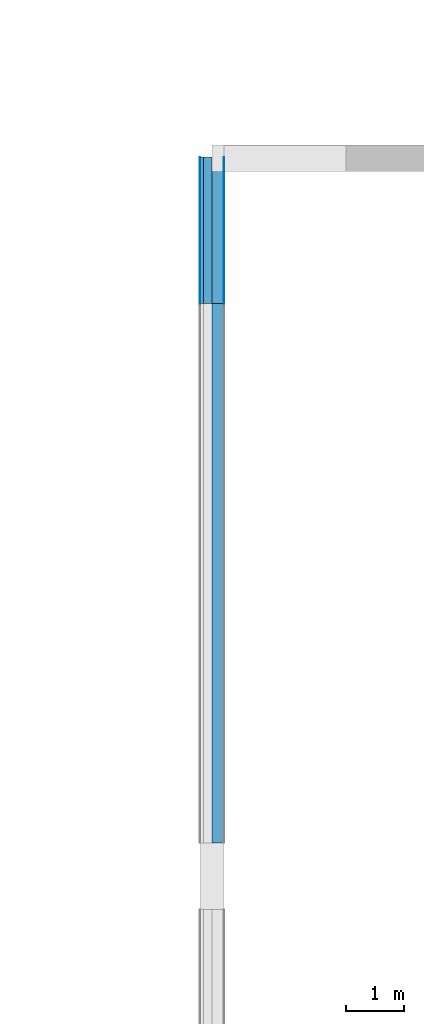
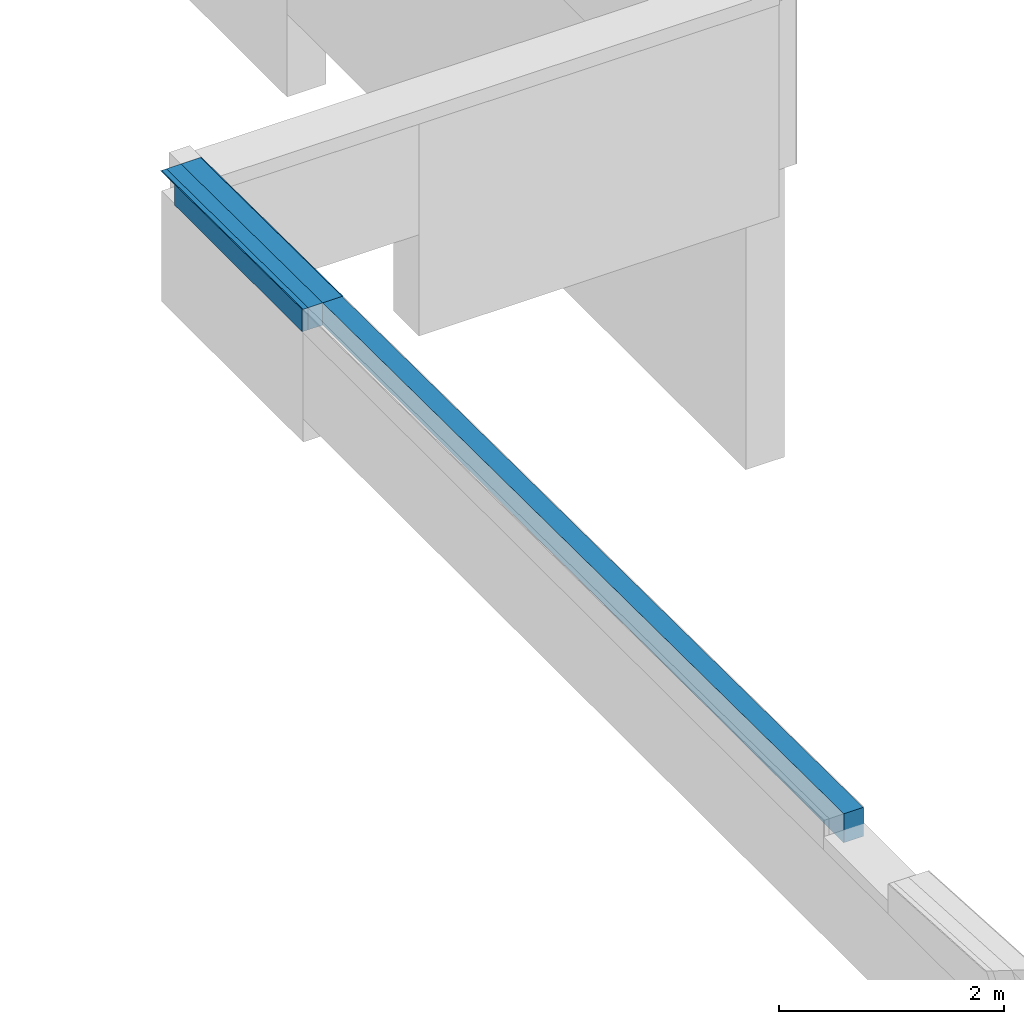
# One storey, part 11 of 17: 6 building element parts, 2 elements without a shape of their own.
"""IFC2X3 building model written with IfcOpenShell, lengths in millimetres."""

from ifc_helpers import new_model, entity, si_unit, converted_unit, derived_unit, money_unit, direction, frame, origin_with_axes, place, context, subcontext, project, spatial, polyline, outline, extrude, boolean, faceted_brep, material, type_object, element, aggregate, save


model = new_model("IFC2X3")

# Units and contexts
model_context = context("Model", 3, precision=0.01, world=origin_with_axes(), true_north=direction((0.0, 1.0)))
body_context = subcontext(model_context, "Body", "Model", "MODEL_VIEW")
ifc_project = project(units=[si_unit("LENGTHUNIT", "METRE", prefix="MILLI"), si_unit("AREAUNIT", "SQUARE_METRE"), si_unit("VOLUMEUNIT", "CUBIC_METRE"), converted_unit("PLANEANGLEUNIT", "DEGREE", entity("IfcPlaneAngleMeasure", 0.0174532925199), si_unit("PLANEANGLEUNIT", "RADIAN"), dimensions=[0, 0, 0, 0, 0, 0, 0]), si_unit("SOLIDANGLEUNIT", "STERADIAN"), money_unit("EUR"), converted_unit("TIMEUNIT", "Year", entity("IfcTimeMeasure", 31556926.0), si_unit("TIMEUNIT", "SECOND"), dimensions=[0, 0, 1, 0, 0, 0, 0]), si_unit("MASSUNIT", "GRAM", prefix="KILO"), si_unit("THERMODYNAMICTEMPERATUREUNIT", "DEGREE_CELSIUS"), si_unit("LUMINOUSINTENSITYUNIT", "LUMEN"), si_unit("ENERGYUNIT", "JOULE", prefix="MEGA"), derived_unit("THERMALCONDUCTANCEUNIT", [(si_unit("POWERUNIT", "WATT"), 1), (si_unit("LENGTHUNIT", "METRE"), -1), (si_unit("THERMODYNAMICTEMPERATUREUNIT", "KELVIN"), -1)]), derived_unit("SPECIFICHEATCAPACITYUNIT", [(si_unit("ENERGYUNIT", "JOULE"), 1), (si_unit("MASSUNIT", "GRAM", prefix="KILO"), -1), (si_unit("THERMODYNAMICTEMPERATUREUNIT", "KELVIN"), -1)]), derived_unit("MASSDENSITYUNIT", [(si_unit("MASSUNIT", "GRAM", prefix="KILO"), 1), (si_unit("VOLUMEUNIT", "CUBIC_METRE"), -1)])], contexts=[model_context])

# Site, building, storey
site_placement = place(None, origin_with_axes())
site = spatial("IfcSite", under=ifc_project, at=site_placement, Name="Puškini 31, Narva", CompositionType="ELEMENT")
building_placement = place(site_placement, origin_with_axes())
building = spatial("IfcBuilding", under=site, at=building_placement, Name="Narva Riigigümnaasium", CompositionType="ELEMENT")
storey_placement = place(building_placement, frame((0.0, 0.0, -6800.0), z_axis=(0.0, 0.0, 1.0), x_axis=(1.0, 0.0, 0.0)))
storey = spatial("IfcBuildingStorey", under=building, at=storey_placement, Name="0.korrus -6.8", CompositionType="ELEMENT", Elevation=-6800.0)

# Wall, building element part
wall_type = type_object("IfcWallType", Name="G-VS-02 420", PredefinedType="NOTDEFINED")
wall_1_placement = place(storey_placement, frame((22199.9999985, 183110.149991, 5330.0), z_axis=(0.0, 0.0, 1.0), x_axis=(0.0, 1.0, 0.0)))
wall_1 = element("IfcWall", 1, at=wall_1_placement, inside=storey, type_object=wall_type, Name="Sisesein")
ifc_material_1 = material(Name="Betoon element")
building_element_part_1_placement = place(wall_1_placement, origin_with_axes())
building_element_part_1 = element("IfcBuildingElementPart", 2, at=building_element_part_1_placement, material=ifc_material_1, Name="Betoon element", context=body_context, shape_type="CSG", body=[
    boolean("DIFFERENCE", boolean("DIFFERENCE", boolean("DIFFERENCE", boolean("DIFFERENCE", boolean("DIFFERENCE", boolean("DIFFERENCE", extrude(outline(polyline([(0.0, -200.0), (9269.85000857, -200.0), (9269.85000857, 0.0), (0.0, 0.0), (0.0, -200.0)])), origin_with_axes(), (0.0, 0.0, 1.0), 500.0), faceted_brep([(9269.85000857, -200.0, 150.0), (9269.85000857, -210.0, 150.0), (9269.85000857, -210.0, 0.0), (9269.85000857, -200.0, 0.0), (9069.85000856, -210.0, 150.0), (9069.85000856, -200.0, 150.0), (9069.85000856, -210.0, 140.0), (0.0, -210.0, 140.0), (0.0, -210.0, 0.0), (0.0, -200.0, 0.0), (0.0, -200.0, 140.0), (9069.85000856, -200.0, 140.0)], [[[0, 1, 2, 3]], [[4, 1, 0, 5]], [[6, 7, 8, 2, 1, 4]], [[2, 8, 9, 3]], [[5, 0, 3, 9, 10, 11]], [[6, 4, 5, 11]], [[7, 6, 11, 10]], [[7, 10, 9, 8]]])), faceted_brep([(0.0, -210.0, 315.342716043), (9269.85000857, -210.0, 242.144862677), (9269.85000857, -210.0, 500.0), (0.0, -210.0, 500.0), (9269.85000857, -200.0, 242.144862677), (0.0, -200.0, 315.342716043), (9269.85000857, -200.0, 500.0), (0.0, -200.0, 500.0)], [[[0, 1, 2, 3]], [[4, 1, 0, 5]], [[1, 4, 6, 2]], [[7, 3, 2, 6]], [[5, 0, 3, 7]], [[4, 5, 7, 6]]])), faceted_brep([(0.0, -200.0, 315.342716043), (9269.85000857, -200.0, 242.144862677), (9269.85000857, -200.0, 500.0), (0.0, -200.0, 500.0), (9269.85000857, 0.0, 242.144862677), (0.0, 0.0, 315.342716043), (9269.85000857, 0.0, 500.0), (0.0, 0.0, 500.0)], [[[0, 1, 2, 3]], [[4, 1, 0, 5]], [[1, 4, 6, 2]], [[7, 3, 2, 6]], [[5, 0, 3, 7]], [[4, 5, 7, 6]]])), faceted_brep([(0.0, 0.0, 315.342716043), (9269.85000857, 0.0, 242.144862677), (9269.85000857, 0.0, 500.0), (0.0, 0.0, 500.0), (9269.85000857, 150.0, 242.144862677), (0.0, 150.0, 315.342716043), (9269.85000857, 150.0, 500.0), (0.0, 150.0, 500.0)], [[[0, 1, 2, 3]], [[4, 1, 0, 5]], [[1, 4, 6, 2]], [[7, 3, 2, 6]], [[5, 0, 3, 7]], [[4, 5, 7, 6]]])), faceted_brep([(0.0, 150.0, 315.342716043), (9269.85000857, 150.0, 242.144862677), (9269.85000857, 150.0, 500.0), (0.0, 150.0, 500.0), (9269.85000857, 200.0, 242.144862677), (0.0, 200.0, 315.342716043), (9269.85000857, 200.0, 500.0), (0.0, 200.0, 500.0)], [[[0, 1, 2, 3]], [[4, 1, 0, 5]], [[1, 4, 6, 2]], [[7, 3, 2, 6]], [[5, 0, 3, 7]], [[4, 5, 7, 6]]])), faceted_brep([(0.0, 200.0, 315.342716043), (9269.85000857, 200.0, 242.144862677), (9269.85000857, 200.0, 500.0), (0.0, 200.0, 500.0), (9269.85000857, 210.0, 242.144862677), (0.0, 210.0, 315.342716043), (9269.85000857, 210.0, 500.0), (0.0, 210.0, 500.0)], [[[0, 1, 2, 3]], [[4, 1, 0, 5]], [[1, 4, 6, 2]], [[7, 3, 2, 6]], [[5, 0, 3, 7]], [[4, 5, 7, 6]]])),
])
aggregate(wall_1, [building_element_part_1])

# Wall, building element parts
wall_2_placement = place(storey_placement, frame((22199.9999985, 192380.0, 5330.0), z_axis=(0.0, 0.0, 1.0), x_axis=(0.0, 1.0, 0.0)))
wall_2 = element("IfcWall", 3, at=wall_2_placement, inside=storey, type_object=wall_type, Name="Sisesein")
ifc_material_2 = material(Name="Salto-siseviimistlus")
building_element_part_2_placement = place(wall_2_placement, origin_with_axes())
building_element_part_2 = element("IfcBuildingElementPart", 4, at=building_element_part_2_placement, material=ifc_material_2, Name="Salto-siseviimistlus", context=body_context, shape_type="CSG", body=[
    boolean("DIFFERENCE", boolean("DIFFERENCE", boolean("DIFFERENCE", boolean("DIFFERENCE", boolean("DIFFERENCE", extrude(outline(polyline([(0.0, -210.0), (2730.0, -210.0), (2730.0, -200.0), (0.0, -200.0), (0.0, -210.0)])), frame((0.0, 0.0, -9.63803259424e-07), z_axis=(0.0, 0.0, 1.0), x_axis=(1.0, 0.0, 0.0)), (0.0, 0.0, 1.0), 500.000000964), faceted_brep([(2270.0, -209.999999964, 150.0), (0.0, -210.0, 150.0), (0.0, -210.0, -9.63803259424e-07), (2730.0, -210.0, -9.63803259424e-07), (2730.0, -210.0, 500.0), (0.0, -210.0, 500.0), (0.0, -210.0, 242.144862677), (2520.0, -209.999999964, 222.246095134), (2520.0, -209.999999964, 220.272011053), (2270.0, -209.999999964, 220.272011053), (2270.0, -199.999998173, 150.0), (0.0, -200.0, 150.0), (0.0, -200.0, -9.63803259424e-07), (2730.0, -200.0, -9.63803259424e-07), (2730.0, -200.0, 500.0), (0.0, -200.0, 500.0), (0.0, -200.0, 242.144862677), (2520.0, -199.999997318, 222.246095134), (2520.0, -199.999997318, 220.272011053), (2270.0, -199.999997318, 220.272011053)], [[[0, 1, 2, 3, 4, 5, 6, 7, 8, 9]], [[1, 0, 10, 11]], [[1, 11, 12, 2]], [[3, 2, 12, 13]], [[4, 3, 13, 14]], [[15, 5, 4, 14]], [[16, 6, 5, 15]], [[7, 6, 16, 17]], [[8, 7, 17, 18]], [[9, 8, 18, 19]], [[0, 9, 19, 10]], [[17, 16, 15, 14, 13, 12, 11, 10, 19, 18]]])), faceted_brep([(2270.0, -200.0, -9.63803259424e-07), (2730.0, -200.0, -9.63803259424e-07), (2730.0, -200.0, 500.0), (0.0, -200.0, 500.0), (0.0, -200.0, 242.144862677), (2520.0, -199.999997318, 222.246095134), (2520.0, -199.999997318, 220.272011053), (2270.0, -199.999997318, 220.272011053), (2270.0, 0.0, -9.63803259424e-07), (2730.0, 0.0, -9.63803259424e-07), (2730.0, 0.0, 500.0), (0.0, 0.0, 500.0), (0.0, 0.0, 242.144862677), (2520.0, 0.0, 222.246095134), (2520.0, 0.0, 220.272011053), (2270.0, 0.0, 220.272011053)], [[[0, 1, 2, 3, 4, 5, 6, 7]], [[0, 8, 9, 1]], [[2, 1, 9, 10]], [[11, 3, 2, 10]], [[12, 4, 3, 11]], [[5, 4, 12, 13]], [[13, 14, 6, 5]], [[14, 15, 7, 6]], [[0, 7, 15, 8]], [[13, 12, 11, 10, 9, 8, 15, 14]]])), faceted_brep([(2270.0, 0.0, 220.272011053), (2270.0, 0.0, -9.63803259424e-07), (2730.0, 0.0, -9.63803259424e-07), (2730.0, 0.0, 500.0), (0.0, 0.0, 500.0), (0.0, 0.0, 242.144862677), (2520.0, 0.0, 222.246095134), (2520.0, 0.0, 220.272011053), (2270.0, 150.0, -9.63803259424e-07), (2270.0, 150.0, 220.272011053), (2730.0, 150.0, -9.63803259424e-07), (2730.0, 150.0, 500.0), (0.0, 150.0, 500.0), (0.0, 150.0, 242.144862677), (2520.0, 150.0, 222.246095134), (2520.0, 150.0, 220.272011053)], [[[0, 1, 2, 3, 4, 5, 6, 7]], [[8, 1, 0, 9]], [[1, 8, 10, 2]], [[3, 2, 10, 11]], [[12, 4, 3, 11]], [[13, 5, 4, 12]], [[6, 5, 13, 14]], [[14, 15, 7, 6]], [[15, 9, 0, 7]], [[14, 13, 12, 11, 10, 8, 9, 15]]])), faceted_brep([(2270.0, 150.0, 220.272011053), (2270.0, 150.0, -9.63803259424e-07), (2730.0, 150.0, -9.63803259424e-07), (2730.0, 150.0, 500.0), (0.0, 150.0, 500.0), (0.0, 150.0, 242.144862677), (2520.0, 150.0, 222.246095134), (2520.0, 150.0, 220.272011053), (2270.0, 199.999997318, 220.272011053), (2270.0, 200.0, -9.63803259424e-07), (2730.0, 200.0, -9.63803259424e-07), (2730.0, 200.0, 500.0), (0.0, 200.0, 500.0), (0.0, 200.0, 242.144862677), (2520.0, 199.999997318, 222.246095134), (2520.0, 199.999997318, 220.272011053)], [[[0, 1, 2, 3, 4, 5, 6, 7]], [[1, 0, 8, 9]], [[1, 9, 10, 2]], [[3, 2, 10, 11]], [[12, 4, 3, 11]], [[13, 5, 4, 12]], [[6, 5, 13, 14]], [[7, 6, 14, 15]], [[0, 7, 15, 8]], [[14, 13, 12, 11, 10, 9, 8, 15]]])), faceted_brep([(2270.0, 199.999997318, 220.272011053), (2270.0, 200.0, -9.63803259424e-07), (2730.0, 200.0, -9.63803259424e-07), (2730.0, 200.0, 500.0), (0.0, 200.0, 500.0), (0.0, 200.0, 242.144862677), (2520.0, 199.999997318, 222.246095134), (2520.0, 199.999997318, 220.272011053), (2270.0, 210.0, -9.63803259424e-07), (2270.0, 210.0, 220.272011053), (2730.0, 210.0, -9.63803259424e-07), (2730.0, 210.0, 500.0), (0.0, 210.0, 500.0), (0.0, 210.0, 242.144862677), (2520.0, 210.0, 222.246095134), (2520.0, 210.0, 220.272011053)], [[[0, 1, 2, 3, 4, 5, 6, 7]], [[8, 1, 0, 9]], [[1, 8, 10, 2]], [[3, 2, 10, 11]], [[12, 4, 3, 11]], [[13, 5, 4, 12]], [[6, 5, 13, 14]], [[14, 15, 7, 6]], [[15, 9, 0, 7]], [[14, 13, 12, 11, 10, 8, 9, 15]]])),
])
building_element_part_3_placement = place(wall_2_placement, origin_with_axes())
building_element_part_3 = element("IfcBuildingElementPart", 5, at=building_element_part_3_placement, material=ifc_material_1, Name="Betoon element", context=body_context, shape_type="CSG", body=[
    boolean("DIFFERENCE", boolean("DIFFERENCE", boolean("DIFFERENCE", boolean("DIFFERENCE", boolean("DIFFERENCE", extrude(outline(polyline([(0.0, -200.0), (2730.0, -200.0), (2730.0, 0.0), (0.0, 0.0), (0.0, -200.0)])), frame((0.0, 0.0, -9.63803259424e-07), z_axis=(0.0, 0.0, 1.0), x_axis=(1.0, 0.0, 0.0)), (0.0, 0.0, 1.0), 500.000000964), faceted_brep([(2270.0, -209.999999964, 150.0), (0.0, -210.0, 150.0), (0.0, -210.0, -9.63803259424e-07), (2730.0, -210.0, -9.63803259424e-07), (2730.0, -210.0, 500.0), (0.0, -210.0, 500.0), (0.0, -210.0, 242.144862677), (2520.0, -209.999999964, 222.246095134), (2520.0, -209.999999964, 220.272011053), (2270.0, -209.999999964, 220.272011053), (2270.0, -199.999998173, 150.0), (0.0, -200.0, 150.0), (0.0, -200.0, -9.63803259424e-07), (2730.0, -200.0, -9.63803259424e-07), (2730.0, -200.0, 500.0), (0.0, -200.0, 500.0), (0.0, -200.0, 242.144862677), (2520.0, -199.999997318, 222.246095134), (2520.0, -199.999997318, 220.272011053), (2270.0, -199.999997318, 220.272011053)], [[[0, 1, 2, 3, 4, 5, 6, 7, 8, 9]], [[1, 0, 10, 11]], [[1, 11, 12, 2]], [[3, 2, 12, 13]], [[4, 3, 13, 14]], [[15, 5, 4, 14]], [[16, 6, 5, 15]], [[7, 6, 16, 17]], [[8, 7, 17, 18]], [[9, 8, 18, 19]], [[0, 9, 19, 10]], [[17, 16, 15, 14, 13, 12, 11, 10, 19, 18]]])), faceted_brep([(2270.0, -200.0, -9.63803259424e-07), (2730.0, -200.0, -9.63803259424e-07), (2730.0, -200.0, 500.0), (0.0, -200.0, 500.0), (0.0, -200.0, 242.144862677), (2520.0, -199.999997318, 222.246095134), (2520.0, -199.999997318, 220.272011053), (2270.0, -199.999997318, 220.272011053), (2270.0, 0.0, -9.63803259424e-07), (2730.0, 0.0, -9.63803259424e-07), (2730.0, 0.0, 500.0), (0.0, 0.0, 500.0), (0.0, 0.0, 242.144862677), (2520.0, 0.0, 222.246095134), (2520.0, 0.0, 220.272011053), (2270.0, 0.0, 220.272011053)], [[[0, 1, 2, 3, 4, 5, 6, 7]], [[0, 8, 9, 1]], [[2, 1, 9, 10]], [[11, 3, 2, 10]], [[12, 4, 3, 11]], [[5, 4, 12, 13]], [[13, 14, 6, 5]], [[14, 15, 7, 6]], [[0, 7, 15, 8]], [[13, 12, 11, 10, 9, 8, 15, 14]]])), faceted_brep([(2270.0, 0.0, 220.272011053), (2270.0, 0.0, -9.63803259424e-07), (2730.0, 0.0, -9.63803259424e-07), (2730.0, 0.0, 500.0), (0.0, 0.0, 500.0), (0.0, 0.0, 242.144862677), (2520.0, 0.0, 222.246095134), (2520.0, 0.0, 220.272011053), (2270.0, 150.0, -9.63803259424e-07), (2270.0, 150.0, 220.272011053), (2730.0, 150.0, -9.63803259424e-07), (2730.0, 150.0, 500.0), (0.0, 150.0, 500.0), (0.0, 150.0, 242.144862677), (2520.0, 150.0, 222.246095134), (2520.0, 150.0, 220.272011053)], [[[0, 1, 2, 3, 4, 5, 6, 7]], [[8, 1, 0, 9]], [[1, 8, 10, 2]], [[3, 2, 10, 11]], [[12, 4, 3, 11]], [[13, 5, 4, 12]], [[6, 5, 13, 14]], [[14, 15, 7, 6]], [[15, 9, 0, 7]], [[14, 13, 12, 11, 10, 8, 9, 15]]])), faceted_brep([(2270.0, 150.0, 220.272011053), (2270.0, 150.0, -9.63803259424e-07), (2730.0, 150.0, -9.63803259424e-07), (2730.0, 150.0, 500.0), (0.0, 150.0, 500.0), (0.0, 150.0, 242.144862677), (2520.0, 150.0, 222.246095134), (2520.0, 150.0, 220.272011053), (2270.0, 199.999997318, 220.272011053), (2270.0, 200.0, -9.63803259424e-07), (2730.0, 200.0, -9.63803259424e-07), (2730.0, 200.0, 500.0), (0.0, 200.0, 500.0), (0.0, 200.0, 242.144862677), (2520.0, 199.999997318, 222.246095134), (2520.0, 199.999997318, 220.272011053)], [[[0, 1, 2, 3, 4, 5, 6, 7]], [[1, 0, 8, 9]], [[1, 9, 10, 2]], [[3, 2, 10, 11]], [[12, 4, 3, 11]], [[13, 5, 4, 12]], [[6, 5, 13, 14]], [[7, 6, 14, 15]], [[0, 7, 15, 8]], [[14, 13, 12, 11, 10, 9, 8, 15]]])), faceted_brep([(2270.0, 199.999997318, 220.272011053), (2270.0, 200.0, -9.63803259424e-07), (2730.0, 200.0, -9.63803259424e-07), (2730.0, 200.0, 500.0), (0.0, 200.0, 500.0), (0.0, 200.0, 242.144862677), (2520.0, 199.999997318, 222.246095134), (2520.0, 199.999997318, 220.272011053), (2270.0, 210.0, -9.63803259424e-07), (2270.0, 210.0, 220.272011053), (2730.0, 210.0, -9.63803259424e-07), (2730.0, 210.0, 500.0), (0.0, 210.0, 500.0), (0.0, 210.0, 242.144862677), (2520.0, 210.0, 222.246095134), (2520.0, 210.0, 220.272011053)], [[[0, 1, 2, 3, 4, 5, 6, 7]], [[8, 1, 0, 9]], [[1, 8, 10, 2]], [[3, 2, 10, 11]], [[12, 4, 3, 11]], [[13, 5, 4, 12]], [[6, 5, 13, 14]], [[14, 15, 7, 6]], [[15, 9, 0, 7]], [[14, 13, 12, 11, 10, 8, 9, 15]]])),
])
ifc_material_3 = material(Name="Salto-PIR soojustus")
building_element_part_4_placement = place(wall_2_placement, origin_with_axes())
building_element_part_4 = element("IfcBuildingElementPart", 6, at=building_element_part_4_placement, material=ifc_material_3, Name="Salto-PIR soojustus", context=body_context, shape_type="CSG", body=[
    boolean("DIFFERENCE", boolean("DIFFERENCE", boolean("DIFFERENCE", boolean("DIFFERENCE", boolean("DIFFERENCE", extrude(outline(polyline([(0.0, 0.0), (2730.0, 0.0), (2730.0, 150.0), (0.0, 150.0), (0.0, 0.0)])), frame((0.0, 0.0, -9.63803259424e-07), z_axis=(0.0, 0.0, 1.0), x_axis=(1.0, 0.0, 0.0)), (0.0, 0.0, 1.0), 500.000000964), faceted_brep([(2270.0, -209.999999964, 150.0), (0.0, -210.0, 150.0), (0.0, -210.0, -9.63803259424e-07), (2730.0, -210.0, -9.63803259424e-07), (2730.0, -210.0, 500.0), (0.0, -210.0, 500.0), (0.0, -210.0, 242.144862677), (2520.0, -209.999999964, 222.246095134), (2520.0, -209.999999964, 220.272011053), (2270.0, -209.999999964, 220.272011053), (2270.0, -199.999998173, 150.0), (0.0, -200.0, 150.0), (0.0, -200.0, -9.63803259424e-07), (2730.0, -200.0, -9.63803259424e-07), (2730.0, -200.0, 500.0), (0.0, -200.0, 500.0), (0.0, -200.0, 242.144862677), (2520.0, -199.999997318, 222.246095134), (2520.0, -199.999997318, 220.272011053), (2270.0, -199.999997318, 220.272011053)], [[[0, 1, 2, 3, 4, 5, 6, 7, 8, 9]], [[1, 0, 10, 11]], [[1, 11, 12, 2]], [[3, 2, 12, 13]], [[4, 3, 13, 14]], [[15, 5, 4, 14]], [[16, 6, 5, 15]], [[7, 6, 16, 17]], [[8, 7, 17, 18]], [[9, 8, 18, 19]], [[0, 9, 19, 10]], [[17, 16, 15, 14, 13, 12, 11, 10, 19, 18]]])), faceted_brep([(2270.0, -200.0, -9.63803259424e-07), (2730.0, -200.0, -9.63803259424e-07), (2730.0, -200.0, 500.0), (0.0, -200.0, 500.0), (0.0, -200.0, 242.144862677), (2520.0, -199.999997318, 222.246095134), (2520.0, -199.999997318, 220.272011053), (2270.0, -199.999997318, 220.272011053), (2270.0, 0.0, -9.63803259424e-07), (2730.0, 0.0, -9.63803259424e-07), (2730.0, 0.0, 500.0), (0.0, 0.0, 500.0), (0.0, 0.0, 242.144862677), (2520.0, 0.0, 222.246095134), (2520.0, 0.0, 220.272011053), (2270.0, 0.0, 220.272011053)], [[[0, 1, 2, 3, 4, 5, 6, 7]], [[0, 8, 9, 1]], [[2, 1, 9, 10]], [[11, 3, 2, 10]], [[12, 4, 3, 11]], [[5, 4, 12, 13]], [[13, 14, 6, 5]], [[14, 15, 7, 6]], [[0, 7, 15, 8]], [[13, 12, 11, 10, 9, 8, 15, 14]]])), faceted_brep([(2270.0, 0.0, 220.272011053), (2270.0, 0.0, -9.63803259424e-07), (2730.0, 0.0, -9.63803259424e-07), (2730.0, 0.0, 500.0), (0.0, 0.0, 500.0), (0.0, 0.0, 242.144862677), (2520.0, 0.0, 222.246095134), (2520.0, 0.0, 220.272011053), (2270.0, 150.0, -9.63803259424e-07), (2270.0, 150.0, 220.272011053), (2730.0, 150.0, -9.63803259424e-07), (2730.0, 150.0, 500.0), (0.0, 150.0, 500.0), (0.0, 150.0, 242.144862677), (2520.0, 150.0, 222.246095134), (2520.0, 150.0, 220.272011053)], [[[0, 1, 2, 3, 4, 5, 6, 7]], [[8, 1, 0, 9]], [[1, 8, 10, 2]], [[3, 2, 10, 11]], [[12, 4, 3, 11]], [[13, 5, 4, 12]], [[6, 5, 13, 14]], [[14, 15, 7, 6]], [[15, 9, 0, 7]], [[14, 13, 12, 11, 10, 8, 9, 15]]])), faceted_brep([(2270.0, 150.0, 220.272011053), (2270.0, 150.0, -9.63803259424e-07), (2730.0, 150.0, -9.63803259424e-07), (2730.0, 150.0, 500.0), (0.0, 150.0, 500.0), (0.0, 150.0, 242.144862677), (2520.0, 150.0, 222.246095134), (2520.0, 150.0, 220.272011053), (2270.0, 199.999997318, 220.272011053), (2270.0, 200.0, -9.63803259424e-07), (2730.0, 200.0, -9.63803259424e-07), (2730.0, 200.0, 500.0), (0.0, 200.0, 500.0), (0.0, 200.0, 242.144862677), (2520.0, 199.999997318, 222.246095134), (2520.0, 199.999997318, 220.272011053)], [[[0, 1, 2, 3, 4, 5, 6, 7]], [[1, 0, 8, 9]], [[1, 9, 10, 2]], [[3, 2, 10, 11]], [[12, 4, 3, 11]], [[13, 5, 4, 12]], [[6, 5, 13, 14]], [[7, 6, 14, 15]], [[0, 7, 15, 8]], [[14, 13, 12, 11, 10, 9, 8, 15]]])), faceted_brep([(2270.0, 199.999997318, 220.272011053), (2270.0, 200.0, -9.63803259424e-07), (2730.0, 200.0, -9.63803259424e-07), (2730.0, 200.0, 500.0), (0.0, 200.0, 500.0), (0.0, 200.0, 242.144862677), (2520.0, 199.999997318, 222.246095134), (2520.0, 199.999997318, 220.272011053), (2270.0, 210.0, -9.63803259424e-07), (2270.0, 210.0, 220.272011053), (2730.0, 210.0, -9.63803259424e-07), (2730.0, 210.0, 500.0), (0.0, 210.0, 500.0), (0.0, 210.0, 242.144862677), (2520.0, 210.0, 222.246095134), (2520.0, 210.0, 220.272011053)], [[[0, 1, 2, 3, 4, 5, 6, 7]], [[8, 1, 0, 9]], [[1, 8, 10, 2]], [[3, 2, 10, 11]], [[12, 4, 3, 11]], [[13, 5, 4, 12]], [[6, 5, 13, 14]], [[14, 15, 7, 6]], [[15, 9, 0, 7]], [[14, 13, 12, 11, 10, 8, 9, 15]]])),
])
building_element_part_5_placement = place(wall_2_placement, origin_with_axes())
building_element_part_5 = element("IfcBuildingElementPart", 7, at=building_element_part_5_placement, material=ifc_material_3, Name="Salto-PIR soojustus", context=body_context, shape_type="CSG", body=[
    boolean("DIFFERENCE", boolean("DIFFERENCE", boolean("DIFFERENCE", boolean("DIFFERENCE", boolean("DIFFERENCE", extrude(outline(polyline([(0.0, 150.0), (2730.0, 150.0), (2730.0, 200.0), (0.0, 200.0), (0.0, 150.0)])), frame((0.0, 0.0, -9.63803259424e-07), z_axis=(0.0, 0.0, 1.0), x_axis=(1.0, 0.0, 0.0)), (0.0, 0.0, 1.0), 500.000000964), faceted_brep([(2270.0, -209.999999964, 150.0), (0.0, -210.0, 150.0), (0.0, -210.0, -9.63803259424e-07), (2730.0, -210.0, -9.63803259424e-07), (2730.0, -210.0, 500.0), (0.0, -210.0, 500.0), (0.0, -210.0, 242.144862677), (2520.0, -209.999999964, 222.246095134), (2520.0, -209.999999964, 220.272011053), (2270.0, -209.999999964, 220.272011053), (2270.0, -199.999998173, 150.0), (0.0, -200.0, 150.0), (0.0, -200.0, -9.63803259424e-07), (2730.0, -200.0, -9.63803259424e-07), (2730.0, -200.0, 500.0), (0.0, -200.0, 500.0), (0.0, -200.0, 242.144862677), (2520.0, -199.999997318, 222.246095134), (2520.0, -199.999997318, 220.272011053), (2270.0, -199.999997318, 220.272011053)], [[[0, 1, 2, 3, 4, 5, 6, 7, 8, 9]], [[1, 0, 10, 11]], [[1, 11, 12, 2]], [[3, 2, 12, 13]], [[4, 3, 13, 14]], [[15, 5, 4, 14]], [[16, 6, 5, 15]], [[7, 6, 16, 17]], [[8, 7, 17, 18]], [[9, 8, 18, 19]], [[0, 9, 19, 10]], [[17, 16, 15, 14, 13, 12, 11, 10, 19, 18]]])), faceted_brep([(2270.0, -200.0, -9.63803259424e-07), (2730.0, -200.0, -9.63803259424e-07), (2730.0, -200.0, 500.0), (0.0, -200.0, 500.0), (0.0, -200.0, 242.144862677), (2520.0, -199.999997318, 222.246095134), (2520.0, -199.999997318, 220.272011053), (2270.0, -199.999997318, 220.272011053), (2270.0, 0.0, -9.63803259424e-07), (2730.0, 0.0, -9.63803259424e-07), (2730.0, 0.0, 500.0), (0.0, 0.0, 500.0), (0.0, 0.0, 242.144862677), (2520.0, 0.0, 222.246095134), (2520.0, 0.0, 220.272011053), (2270.0, 0.0, 220.272011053)], [[[0, 1, 2, 3, 4, 5, 6, 7]], [[0, 8, 9, 1]], [[2, 1, 9, 10]], [[11, 3, 2, 10]], [[12, 4, 3, 11]], [[5, 4, 12, 13]], [[13, 14, 6, 5]], [[14, 15, 7, 6]], [[0, 7, 15, 8]], [[13, 12, 11, 10, 9, 8, 15, 14]]])), faceted_brep([(2270.0, 0.0, 220.272011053), (2270.0, 0.0, -9.63803259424e-07), (2730.0, 0.0, -9.63803259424e-07), (2730.0, 0.0, 500.0), (0.0, 0.0, 500.0), (0.0, 0.0, 242.144862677), (2520.0, 0.0, 222.246095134), (2520.0, 0.0, 220.272011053), (2270.0, 150.0, -9.63803259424e-07), (2270.0, 150.0, 220.272011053), (2730.0, 150.0, -9.63803259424e-07), (2730.0, 150.0, 500.0), (0.0, 150.0, 500.0), (0.0, 150.0, 242.144862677), (2520.0, 150.0, 222.246095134), (2520.0, 150.0, 220.272011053)], [[[0, 1, 2, 3, 4, 5, 6, 7]], [[8, 1, 0, 9]], [[1, 8, 10, 2]], [[3, 2, 10, 11]], [[12, 4, 3, 11]], [[13, 5, 4, 12]], [[6, 5, 13, 14]], [[14, 15, 7, 6]], [[15, 9, 0, 7]], [[14, 13, 12, 11, 10, 8, 9, 15]]])), faceted_brep([(2270.0, 150.0, 220.272011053), (2270.0, 150.0, -9.63803259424e-07), (2730.0, 150.0, -9.63803259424e-07), (2730.0, 150.0, 500.0), (0.0, 150.0, 500.0), (0.0, 150.0, 242.144862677), (2520.0, 150.0, 222.246095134), (2520.0, 150.0, 220.272011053), (2270.0, 199.999997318, 220.272011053), (2270.0, 200.0, -9.63803259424e-07), (2730.0, 200.0, -9.63803259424e-07), (2730.0, 200.0, 500.0), (0.0, 200.0, 500.0), (0.0, 200.0, 242.144862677), (2520.0, 199.999997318, 222.246095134), (2520.0, 199.999997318, 220.272011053)], [[[0, 1, 2, 3, 4, 5, 6, 7]], [[1, 0, 8, 9]], [[1, 9, 10, 2]], [[3, 2, 10, 11]], [[12, 4, 3, 11]], [[13, 5, 4, 12]], [[6, 5, 13, 14]], [[7, 6, 14, 15]], [[0, 7, 15, 8]], [[14, 13, 12, 11, 10, 9, 8, 15]]])), faceted_brep([(2270.0, 199.999997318, 220.272011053), (2270.0, 200.0, -9.63803259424e-07), (2730.0, 200.0, -9.63803259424e-07), (2730.0, 200.0, 500.0), (0.0, 200.0, 500.0), (0.0, 200.0, 242.144862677), (2520.0, 199.999997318, 222.246095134), (2520.0, 199.999997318, 220.272011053), (2270.0, 210.0, -9.63803259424e-07), (2270.0, 210.0, 220.272011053), (2730.0, 210.0, -9.63803259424e-07), (2730.0, 210.0, 500.0), (0.0, 210.0, 500.0), (0.0, 210.0, 242.144862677), (2520.0, 210.0, 222.246095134), (2520.0, 210.0, 220.272011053)], [[[0, 1, 2, 3, 4, 5, 6, 7]], [[8, 1, 0, 9]], [[1, 8, 10, 2]], [[3, 2, 10, 11]], [[12, 4, 3, 11]], [[13, 5, 4, 12]], [[6, 5, 13, 14]], [[14, 15, 7, 6]], [[15, 9, 0, 7]], [[14, 13, 12, 11, 10, 8, 9, 15]]])),
])
ifc_material_4 = material(Name="Krohv")
building_element_part_6_placement = place(wall_2_placement, origin_with_axes())
building_element_part_6 = element("IfcBuildingElementPart", 8, at=building_element_part_6_placement, material=ifc_material_4, Name="Krohv", context=body_context, shape_type="CSG", body=[
    boolean("DIFFERENCE", boolean("DIFFERENCE", boolean("DIFFERENCE", boolean("DIFFERENCE", boolean("DIFFERENCE", extrude(outline(polyline([(0.0, 200.0), (2730.0, 200.0), (2730.0, 210.0), (0.0, 210.0), (0.0, 200.0)])), frame((0.0, 0.0, -9.63803259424e-07), z_axis=(0.0, 0.0, 1.0), x_axis=(1.0, 0.0, 0.0)), (0.0, 0.0, 1.0), 500.000000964), faceted_brep([(2270.0, -209.999999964, 150.0), (0.0, -210.0, 150.0), (0.0, -210.0, -9.63803259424e-07), (2730.0, -210.0, -9.63803259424e-07), (2730.0, -210.0, 500.0), (0.0, -210.0, 500.0), (0.0, -210.0, 242.144862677), (2520.0, -209.999999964, 222.246095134), (2520.0, -209.999999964, 220.272011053), (2270.0, -209.999999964, 220.272011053), (2270.0, -199.999998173, 150.0), (0.0, -200.0, 150.0), (0.0, -200.0, -9.63803259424e-07), (2730.0, -200.0, -9.63803259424e-07), (2730.0, -200.0, 500.0), (0.0, -200.0, 500.0), (0.0, -200.0, 242.144862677), (2520.0, -199.999997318, 222.246095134), (2520.0, -199.999997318, 220.272011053), (2270.0, -199.999997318, 220.272011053)], [[[0, 1, 2, 3, 4, 5, 6, 7, 8, 9]], [[1, 0, 10, 11]], [[1, 11, 12, 2]], [[3, 2, 12, 13]], [[4, 3, 13, 14]], [[15, 5, 4, 14]], [[16, 6, 5, 15]], [[7, 6, 16, 17]], [[8, 7, 17, 18]], [[9, 8, 18, 19]], [[0, 9, 19, 10]], [[17, 16, 15, 14, 13, 12, 11, 10, 19, 18]]])), faceted_brep([(2270.0, -200.0, -9.63803259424e-07), (2730.0, -200.0, -9.63803259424e-07), (2730.0, -200.0, 500.0), (0.0, -200.0, 500.0), (0.0, -200.0, 242.144862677), (2520.0, -199.999997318, 222.246095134), (2520.0, -199.999997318, 220.272011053), (2270.0, -199.999997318, 220.272011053), (2270.0, 0.0, -9.63803259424e-07), (2730.0, 0.0, -9.63803259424e-07), (2730.0, 0.0, 500.0), (0.0, 0.0, 500.0), (0.0, 0.0, 242.144862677), (2520.0, 0.0, 222.246095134), (2520.0, 0.0, 220.272011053), (2270.0, 0.0, 220.272011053)], [[[0, 1, 2, 3, 4, 5, 6, 7]], [[0, 8, 9, 1]], [[2, 1, 9, 10]], [[11, 3, 2, 10]], [[12, 4, 3, 11]], [[5, 4, 12, 13]], [[13, 14, 6, 5]], [[14, 15, 7, 6]], [[0, 7, 15, 8]], [[13, 12, 11, 10, 9, 8, 15, 14]]])), faceted_brep([(2270.0, 0.0, 220.272011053), (2270.0, 0.0, -9.63803259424e-07), (2730.0, 0.0, -9.63803259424e-07), (2730.0, 0.0, 500.0), (0.0, 0.0, 500.0), (0.0, 0.0, 242.144862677), (2520.0, 0.0, 222.246095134), (2520.0, 0.0, 220.272011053), (2270.0, 150.0, -9.63803259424e-07), (2270.0, 150.0, 220.272011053), (2730.0, 150.0, -9.63803259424e-07), (2730.0, 150.0, 500.0), (0.0, 150.0, 500.0), (0.0, 150.0, 242.144862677), (2520.0, 150.0, 222.246095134), (2520.0, 150.0, 220.272011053)], [[[0, 1, 2, 3, 4, 5, 6, 7]], [[8, 1, 0, 9]], [[1, 8, 10, 2]], [[3, 2, 10, 11]], [[12, 4, 3, 11]], [[13, 5, 4, 12]], [[6, 5, 13, 14]], [[14, 15, 7, 6]], [[15, 9, 0, 7]], [[14, 13, 12, 11, 10, 8, 9, 15]]])), faceted_brep([(2270.0, 150.0, 220.272011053), (2270.0, 150.0, -9.63803259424e-07), (2730.0, 150.0, -9.63803259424e-07), (2730.0, 150.0, 500.0), (0.0, 150.0, 500.0), (0.0, 150.0, 242.144862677), (2520.0, 150.0, 222.246095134), (2520.0, 150.0, 220.272011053), (2270.0, 199.999997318, 220.272011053), (2270.0, 200.0, -9.63803259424e-07), (2730.0, 200.0, -9.63803259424e-07), (2730.0, 200.0, 500.0), (0.0, 200.0, 500.0), (0.0, 200.0, 242.144862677), (2520.0, 199.999997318, 222.246095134), (2520.0, 199.999997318, 220.272011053)], [[[0, 1, 2, 3, 4, 5, 6, 7]], [[1, 0, 8, 9]], [[1, 9, 10, 2]], [[3, 2, 10, 11]], [[12, 4, 3, 11]], [[13, 5, 4, 12]], [[6, 5, 13, 14]], [[7, 6, 14, 15]], [[0, 7, 15, 8]], [[14, 13, 12, 11, 10, 9, 8, 15]]])), faceted_brep([(2270.0, 199.999997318, 220.272011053), (2270.0, 200.0, -9.63803259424e-07), (2730.0, 200.0, -9.63803259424e-07), (2730.0, 200.0, 500.0), (0.0, 200.0, 500.0), (0.0, 200.0, 242.144862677), (2520.0, 199.999997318, 222.246095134), (2520.0, 199.999997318, 220.272011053), (2270.0, 210.0, -9.63803259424e-07), (2270.0, 210.0, 220.272011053), (2730.0, 210.0, -9.63803259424e-07), (2730.0, 210.0, 500.0), (0.0, 210.0, 500.0), (0.0, 210.0, 242.144862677), (2520.0, 210.0, 222.246095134), (2520.0, 210.0, 220.272011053)], [[[0, 1, 2, 3, 4, 5, 6, 7]], [[8, 1, 0, 9]], [[1, 8, 10, 2]], [[3, 2, 10, 11]], [[12, 4, 3, 11]], [[13, 5, 4, 12]], [[6, 5, 13, 14]], [[14, 15, 7, 6]], [[15, 9, 0, 7]], [[14, 13, 12, 11, 10, 8, 9, 15]]])),
])
aggregate(wall_2, [building_element_part_2, building_element_part_3, building_element_part_4, building_element_part_5, building_element_part_6])

save(model, "model.ifc")
